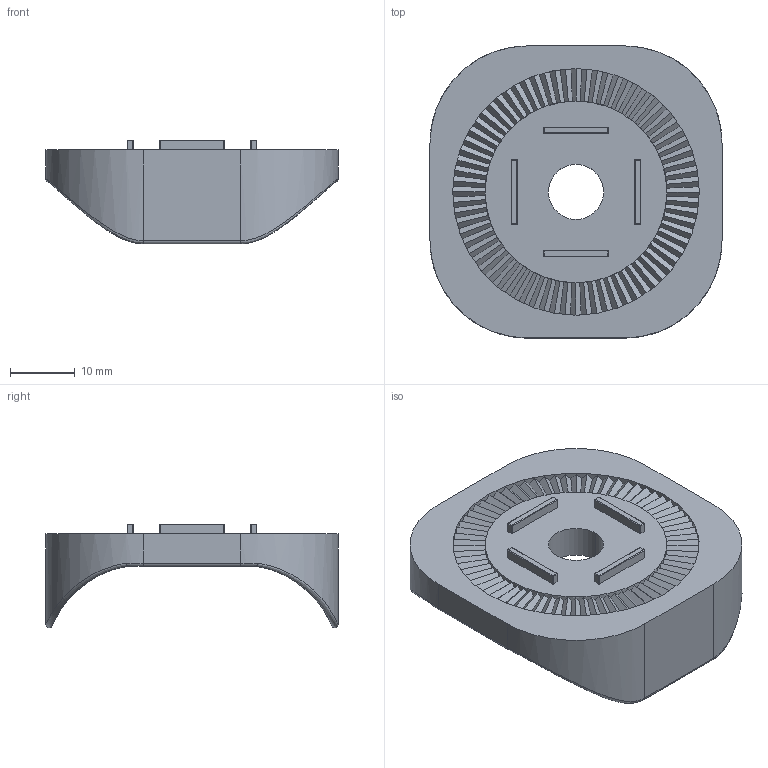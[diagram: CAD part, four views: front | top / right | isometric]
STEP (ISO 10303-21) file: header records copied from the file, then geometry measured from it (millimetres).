
FILE_DESCRIPTION (( 'STEP AP203' ), '1' );
FILE_NAME ('800.029.103A.STEP', '2013-01-21T10:39:25', ( '' ), ( '' ), 'SwSTEP 2.0', 'SolidWorks 2011', '' );
FILE_SCHEMA (( 'CONFIG_CONTROL_DESIGN' ));
Length unit declared in the file: millimetre
Products named in the file (1): 800.029.103A
Bounding box: 45 x 45 x 15.98 mm (x, y, z)
Volume: 11344.1 mm3; surface area: 5798.3 mm2
Topology: 1 solids, 1 shells, 245 faces, 674 edges, 420 vertices
Faces by surface type: plane 171, cylinder 50, sphere 16, torus 4, bspline 4
Entity records: 8205 total; most frequent: CARTESIAN_POINT 2852, ORIENTED_EDGE 1316, DIRECTION 930, EDGE_CURVE 658, VERTEX_POINT 420, AXIS2_PLACEMENT_3D 338, LINE 254, VECTOR 254
